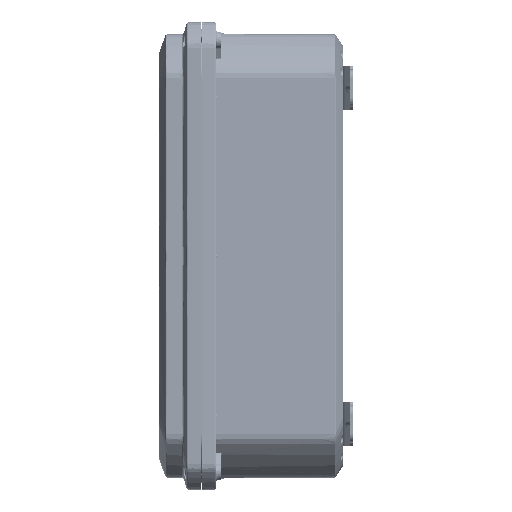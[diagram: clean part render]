
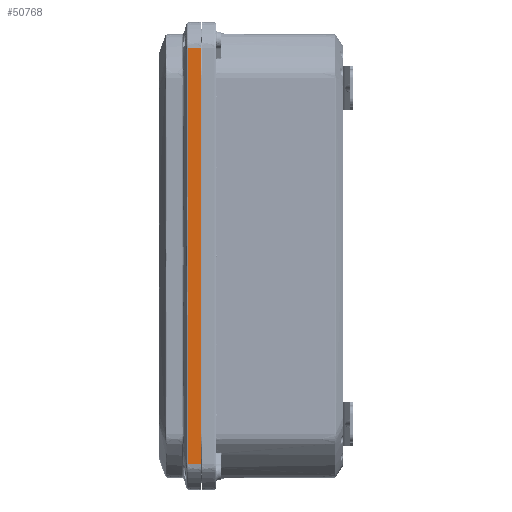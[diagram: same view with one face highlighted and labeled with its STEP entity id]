
A CAD part, left-side view. The second image highlights one B-rep face of the part: STEP entity #50768.
In plain terms, the highlighted planar face has unit normal (-0.999, 0.035, 0).
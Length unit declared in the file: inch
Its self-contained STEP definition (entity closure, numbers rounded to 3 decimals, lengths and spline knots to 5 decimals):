
#7146 = CARTESIAN_POINT ( 'NONE',  ( -7.60732, 0.36314, -3.92698 ) ) ;
#9413 = CARTESIAN_POINT ( 'NONE',  ( -7.60732, 0.36314, 4.17241 ) ) ;
#9882 = CARTESIAN_POINT ( 'NONE',  ( -7.60731, 0.36337, 0. ) ) ;
#23516 = CARTESIAN_POINT ( 'NONE',  ( -7.60732, 0.36315, -3.4361 ) ) ;
#24093 = DIRECTION ( 'NONE',  ( -0.035, -0.999, 0. ) ) ;
#25747 = CARTESIAN_POINT ( 'NONE',  ( -7.60732, 0.36322, 1.96349 ) ) ;
#29916 = CARTESIAN_POINT ( 'NONE',  ( -7.60731, 0.3634, -5.85978 ) ) ;
#31785 = VERTEX_POINT ( 'NONE', #9882 ) ;
#40484 = CARTESIAN_POINT ( 'NONE',  ( -7.62, 0., -5.89046 ) ) ;
#41112 = CARTESIAN_POINT ( 'NONE',  ( -7.60732, 0.36315, 3.4361 ) ) ;
#50768 = ADVANCED_FACE ( 'NONE', ( #61946 ), #176527, .T. ) ;
#51704 = CARTESIAN_POINT ( 'NONE',  ( -7.62, 0., 5.89046 ) ) ;
#54463 = LINE ( 'NONE', #155912, #204741 ) ;
#58421 = CARTESIAN_POINT ( 'NONE',  ( -7.62, 0., 5.89046 ) ) ;
#61789 = CARTESIAN_POINT ( 'NONE',  ( -7.60731, 0.36331, 5.46095 ) ) ;
#61946 = FACE_OUTER_BOUND ( 'NONE', #98438, .T. ) ;
#65523 = B_SPLINE_CURVE_WITH_KNOTS ( 'NONE', 3,
 ( #110949, #209233, #157850, #108802, #158918, #128378, #61789, #175288, #9413, #41112, #25747, #76090, #109873 ),
 .UNSPECIFIED., .F., .F.,
 ( 4, 2, 1, 1, 1, 1, 1, 2, 4 ),
 ( 0., 0.00117, 0.00234, 0.00468, 0.00935, 0.0187, 0.0374, 0.07481, 0.14962 ),
 .UNSPECIFIED. ) ;
#65533 = VERTEX_POINT ( 'NONE', #194793 ) ;
#70868 = DIRECTION ( 'NONE',  ( 0., 0., 1. ) ) ;
#75356 = ORIENTED_EDGE ( 'NONE', *, *, #93867, .F. ) ;
#76027 = EDGE_CURVE ( 'NONE', #65533, #108749, #123479, .T. ) ;
#76090 = CARTESIAN_POINT ( 'NONE',  ( -7.60731, 0.36335, 0.98174 ) ) ;
#82196 = EDGE_CURVE ( 'NONE', #108749, #83378, #54463, .T. ) ;
#83378 = VERTEX_POINT ( 'NONE', #58421 ) ;
#88223 = EDGE_CURVE ( 'NONE', #31785, #65533, #158260, .T. ) ;
#93867 = EDGE_CURVE ( 'NONE', #163890, #83378, #196094, .T. ) ;
#98438 = EDGE_LOOP ( 'NONE', ( #155315, #177397, #141763, #148021, #75356 ) ) ;
#108749 = VERTEX_POINT ( 'NONE', #193445 ) ;
#108802 = CARTESIAN_POINT ( 'NONE',  ( -7.60731, 0.36339, 5.8291 ) ) ;
#109873 = CARTESIAN_POINT ( 'NONE',  ( -7.60731, 0.36337, 0. ) ) ;
#110949 = CARTESIAN_POINT ( 'NONE',  ( -7.60733, 0.36296, 5.89046 ) ) ;
#114335 = CARTESIAN_POINT ( 'NONE',  ( -7.62, 0., -5.89046 ) ) ;
#122911 = CARTESIAN_POINT ( 'NONE',  ( -7.60731, 0.36337, 0. ) ) ;
#123479 = LINE ( 'NONE', #40484, #156677 ) ;
#124076 = VECTOR ( 'NONE', #135716, 39.37008 ) ;
#125209 = AXIS2_PLACEMENT_3D ( 'NONE', #114335, #180852, #195097 ) ;
#126102 = CARTESIAN_POINT ( 'NONE',  ( -7.60731, 0.36339, -5.8291 ) ) ;
#128378 = CARTESIAN_POINT ( 'NONE',  ( -7.60731, 0.36335, 5.67571 ) ) ;
#135716 = DIRECTION ( 'NONE',  ( -0.035, -0.999, 0. ) ) ;
#140310 = CARTESIAN_POINT ( 'NONE',  ( -7.60732, 0.36319, -4.66328 ) ) ;
#141763 = ORIENTED_EDGE ( 'NONE', *, *, #76027, .T. ) ;
#142724 = CARTESIAN_POINT ( 'NONE',  ( -7.60733, 0.36296, 5.89046 ) ) ;
#148021 = ORIENTED_EDGE ( 'NONE', *, *, #82196, .T. ) ;
#151603 = EDGE_CURVE ( 'NONE', #163890, #31785, #65523, .T. ) ;
#155315 = ORIENTED_EDGE ( 'NONE', *, *, #151603, .T. ) ;
#155912 = CARTESIAN_POINT ( 'NONE',  ( -7.62, 0., -5.89046 ) ) ;
#156677 = VECTOR ( 'NONE', #24093, 39.37008 ) ;
#157850 = CARTESIAN_POINT ( 'NONE',  ( -7.60731, 0.3634, 5.85978 ) ) ;
#158260 = B_SPLINE_CURVE_WITH_KNOTS ( 'NONE', 3,
 ( #122911, #189422, #173048, #23516, #7146, #140310, #160920, #213391, #177338, #164173, #126102, #29916, #210148, #161998 ),
 .UNSPECIFIED., .F., .F.,
 ( 4, 2, 2, 1, 1, 1, 1, 2, 4 ),
 ( 0., 0.07481, 0.11221, 0.13092, 0.14027, 0.14494, 0.14728, 0.14845, 0.14962 ),
 .UNSPECIFIED. ) ;
#158918 = CARTESIAN_POINT ( 'NONE',  ( -7.60731, 0.36338, 5.78309 ) ) ;
#160920 = CARTESIAN_POINT ( 'NONE',  ( -7.60732, 0.36323, -5.03144 ) ) ;
#161998 = CARTESIAN_POINT ( 'NONE',  ( -7.60733, 0.36296, -5.89046 ) ) ;
#163890 = VERTEX_POINT ( 'NONE', #142724 ) ;
#164173 = CARTESIAN_POINT ( 'NONE',  ( -7.60731, 0.36338, -5.78308 ) ) ;
#173048 = CARTESIAN_POINT ( 'NONE',  ( -7.60732, 0.36322, -1.96349 ) ) ;
#175288 = CARTESIAN_POINT ( 'NONE',  ( -7.60732, 0.36323, 5.03144 ) ) ;
#176527 = PLANE ( 'NONE',  #125209 ) ;
#177338 = CARTESIAN_POINT ( 'NONE',  ( -7.60731, 0.36335, -5.67571 ) ) ;
#177397 = ORIENTED_EDGE ( 'NONE', *, *, #88223, .T. ) ;
#180852 = DIRECTION ( 'NONE',  ( -0.999, 0.035, 0. ) ) ;
#189422 = CARTESIAN_POINT ( 'NONE',  ( -7.60731, 0.36335, -0.98174 ) ) ;
#193445 = CARTESIAN_POINT ( 'NONE',  ( -7.62, 0., -5.89046 ) ) ;
#194793 = CARTESIAN_POINT ( 'NONE',  ( -7.60733, 0.36296, -5.89046 ) ) ;
#195097 = DIRECTION ( 'NONE',  ( -0.035, -0.999, 0. ) ) ;
#196094 = LINE ( 'NONE', #51704, #124076 ) ;
#204741 = VECTOR ( 'NONE', #70868, 39.37008 ) ;
#209233 = CARTESIAN_POINT ( 'NONE',  ( -7.60731, 0.36333, 5.87512 ) ) ;
#210148 = CARTESIAN_POINT ( 'NONE',  ( -7.60731, 0.36333, -5.87512 ) ) ;
#213391 = CARTESIAN_POINT ( 'NONE',  ( -7.60731, 0.36331, -5.46095 ) ) ;
